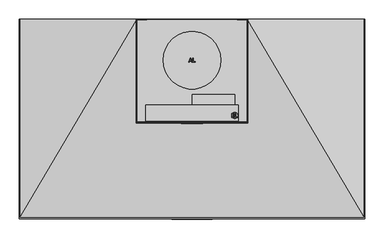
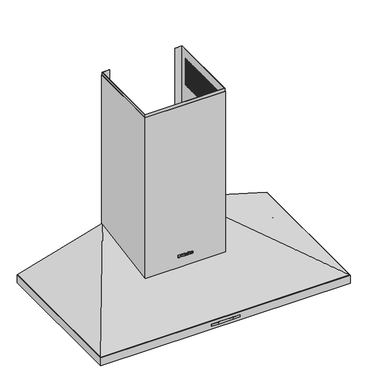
"""IFC4 building model written with IfcOpenShell, lengths in millimetres: proxy geometry, 10558800_USA_DA399-7_EDST : 28399750_USA_10558800_DA399-7_EDST."""

from ifc_helpers import new_model, si_unit, point, frame, frame_2d, origin, place, context, project, spatial, polyline, circle_curve, ellipse_curve, trimmed, segment, composite_curve, outline, extrude, faceted_brep, source, transform, mapped, element, save
from ifc_brep_helpers import plane_surface, cylinder_surface, revolved_surface, extruded_surface, advanced_brep


def specialty_equipment_13ad61e1(model_context):
    return source(origin(), model_context, "Body", "SolidModel", [
        extrude(outline(polyline([(110.5, -224.0), (0.5, -224.0), (0.5, -196.0), (110.5, -196.0), (110.5, -224.0)])), frame((0.0, 0.0, 392.0), z_axis=(0.0, 0.0, 1.0), x_axis=(1.0, 0.0, 0.0)), (0.0, 0.0, 1.0), 52.0),
        extrude(outline(polyline([(120.5, -224.0), (120.5, -265.0), (-120.5, -265.0), (-120.5, -224.0), (120.5, -224.0)])), frame((0.0, 0.0, 392.0), z_axis=(0.0, 0.0, 1.0), x_axis=(1.0, 0.0, 0.0)), (0.0, 0.0, 1.0), 122.0),
        extrude(outline(polyline([(110.014065, -245.4922441), (110.0153832, -246.7601226), (104.1612855, -246.7662093), (104.1643577, -249.7209702), (109.7295269, -249.7151839), (109.7308417, -250.9796987), (104.1656725, -250.9854851), (104.1690817, -254.2643966), (110.1974102, -254.2581287), (110.198736, -255.5332931), (102.9171087, -255.5332931), (102.9066684, -245.4922441), (110.014065, -245.4922441)])), frame((0.0, 0.0, 544.0), z_axis=(0.0, 0.0, 1.0), x_axis=(1.0, 0.0, 0.0)), (0.0, 0.0, 1.0), 1.0),
        extrude(outline(polyline([(112.0694489, -255.5332931), (112.0590087, -245.4922441), (113.3383774, -245.4922441), (113.3475128, -254.2784223), (118.3475101, -254.2732236), (118.3488202, -255.5332931), (112.0694489, -255.5332931)])), frame((0.0, 0.0, 544.0), z_axis=(0.0, 0.0, 1.0), x_axis=(1.0, 0.0, 0.0)), (0.0, 0.0, 1.0), 1.0),
        extrude(outline(composite_curve([segment(trimmed(circle_curve(frame_2d((111.0, -250.5)), 7.5), [point((103.5, -250.5))], [point((118.5, -250.5))], False, "CARTESIAN"), True, "CONTINUOUS"), segment(trimmed(circle_curve(frame_2d((111.0, -250.5)), 7.5), [point((118.5, -250.5))], [point((103.5, -250.5))], False, "CARTESIAN"), True, "CONTINUOUS")], self_intersect=False)), frame((0.0, 0.0, 514.0), z_axis=(0.0, 0.0, 1.0), x_axis=(1.0, 0.0, 0.0)), (0.0, 0.0, 1.0), 30.0),
        extrude(outline(polyline([(-4.5318611, -101.9516419), (-3.4734674, -101.9516419), (0.5452436, -111.9981975), (-0.792243, -111.9981975), (-1.9351182, -108.8581737), (-6.0626299, -108.8581737), (-7.2022382, -111.9892215), (-8.5533668, -111.9892215), (-4.5318611, -101.9516419)]), holes=[polyline([(-5.5985064, -107.6034349), (-2.3931536, -107.6034349), (-4.0041432, -103.2229581), (-5.5985064, -107.6034349)])]), frame((0.0, 0.0, 421.0), z_axis=(0.0, 0.0, 1.0), x_axis=(1.0, 0.0, 0.0)), (0.0, 0.0, 1.0), 1.0),
        extrude(outline(polyline([(1.881291, -112.0005008), (1.881291, -101.9479948), (3.1588826, -101.9479948), (3.1588826, -110.7519516), (8.1588826, -110.7519516), (8.1588826, -112.0005008), (1.881291, -112.0005008)])), frame((0.0, 0.0, 421.0), z_axis=(0.0, 0.0, 1.0), x_axis=(1.0, 0.0, 0.0)), (0.0, 0.0, 1.0), 1.0),
        extrude(outline(composite_curve([segment(trimmed(circle_curve(frame_2d((0.0, -107.0)), 75.0), [point((75.0, -107.0))], [point((-75.0, -107.0))], False, "CARTESIAN"), True, "CONTINUOUS"), segment(trimmed(circle_curve(frame_2d((0.0, -107.0)), 75.0), [point((-75.0, -107.0))], [point((75.0, -107.0))], False, "CARTESIAN"), True, "CONTINUOUS")], self_intersect=False)), frame((0.0, 0.0, 392.0), z_axis=(0.0, 0.0, 1.0), x_axis=(1.0, 0.0, 0.0)), (0.0, 0.0, 1.0), 29.0),
        extrude(outline(polyline([(142.95, -1.6), (142.95, -267.5), (-142.95, -267.5), (-142.95, -1.6), (142.95, -1.6)])), frame((0.0, 0.0, 391.0), z_axis=(0.0, 0.0, 1.0), x_axis=(1.0, 0.0, 0.0)), (0.0, 0.0, 1.0), 1.0),
        faceted_brep([(-145.0, 0.0, 685.0), (-145.0, -270.0, 685.0), (145.0, -270.0, 685.0), (145.0, 0.0, 685.0), (118.0, 0.0, 685.0), (118.0, -0.8, 685.0), (144.2, -0.8, 685.0), (144.2, -269.2, 685.0), (-144.2, -269.2, 685.0), (-144.2, -0.8, 685.0), (-118.0, -0.8, 685.0), (-118.0, 0.0, 685.0), (145.0, 0.0, 120.0), (-145.0, 0.0, 120.0), (-118.0, 0.0, 392.0), (118.0, 0.0, 392.0), (-145.0, -270.0, 74.0), (145.0, -270.0, 74.0), (144.2, -0.8, 119.8637037), (144.2, -269.2, 74.1362963), (-144.2, -269.2, 74.1362963), (-144.2, -0.8, 119.8637037), (118.0, -0.8, 392.0), (-118.0, -0.8, 392.0)], [[[0, 1, 2, 3, 4, 5, 6, 7, 8, 9, 10, 11]], [[3, 12, 13, 0, 11, 14, 15, 4]], [[1, 0, 13, 16]], [[2, 1, 16, 17]], [[3, 2, 17, 12]], [[7, 6, 18, 19]], [[8, 7, 19, 20]], [[9, 8, 20, 21]], [[18, 6, 5, 22, 23, 10, 9, 21]], [[13, 12, 17, 16], [19, 18, 21, 20]], [[15, 22, 5, 4]], [[23, 14, 11, 10]], [[22, 15, 14, 23]]]),
        faceted_brep([(-143.75, -0.8, 695.0), (-143.75, -268.3, 695.0), (143.75, -268.3, 695.0), (143.75, -0.8, 695.0), (118.0, -0.8, 695.0), (118.0, -1.6, 695.0), (142.95, -1.6, 695.0), (142.95, -267.5, 695.0), (-142.95, -267.5, 695.0), (-142.95, -1.6, 695.0), (-118.0, -1.6, 695.0), (-118.0, -0.8, 695.0), (143.75, -0.8, 220.0), (143.75, -268.3, 220.0), (-143.75, -268.3, 220.0), (-143.75, -0.8, 220.0), (142.95, -1.6, 220.0), (-142.95, -1.6, 220.0), (-142.95, -267.5, 220.0), (142.95, -267.5, 220.0), (-118.0, -0.8, 392.0), (118.0, -0.8, 392.0), (-143.75, -242.0, 660.0), (-143.75, -247.0, 660.0), (-143.75, -247.0, 560.0), (-143.75, -242.0, 560.0), (-143.75, -27.0, 560.0), (-143.75, -22.0, 560.0), (-143.75, -22.0, 660.0), (-143.75, -27.0, 660.0), (-143.75, -237.0, 660.0), (-143.75, -237.0, 560.0), (-143.75, -232.0, 560.0), (-143.75, -232.0, 660.0), (-143.75, -227.0, 660.0), (-143.75, -227.0, 560.0), (-143.75, -222.0, 560.0), (-143.75, -222.0, 660.0), (-143.75, -217.0, 660.0), (-143.75, -217.0, 560.0), (-143.75, -212.0, 560.0), (-143.75, -212.0, 660.0), (-143.75, -207.0, 660.0), (-143.75, -207.0, 560.0), (-143.75, -202.0, 560.0), (-143.75, -202.0, 660.0), (-143.75, -197.0, 660.0), (-143.75, -197.0, 560.0), (-143.75, -192.0, 560.0), (-143.75, -192.0, 660.0), (-143.75, -187.0, 660.0), (-143.75, -187.0, 560.0), (-143.75, -182.0, 560.0), (-143.75, -182.0, 660.0), (-143.75, -177.0, 660.0), (-143.75, -177.0, 560.0), (-143.75, -172.0, 560.0), (-143.75, -172.0, 660.0), (-143.75, -167.0, 660.0), (-143.75, -167.0, 560.0), (-143.75, -162.0, 560.0), (-143.75, -162.0, 660.0), (-143.75, -157.0, 660.0), (-143.75, -157.0, 560.0), (-143.75, -152.0, 560.0), (-143.75, -152.0, 660.0), (-143.75, -147.0, 660.0), (-143.75, -147.0, 560.0), (-143.75, -142.0, 560.0), (-143.75, -142.0, 660.0), (-143.75, -137.0, 660.0), (-143.75, -137.0, 560.0), (-143.75, -132.0, 560.0), (-143.75, -132.0, 660.0), (-143.75, -127.0, 660.0), (-143.75, -127.0, 560.0), (-143.75, -122.0, 560.0), (-143.75, -122.0, 660.0), (-143.75, -117.0, 660.0), (-143.75, -117.0, 560.0), (-143.75, -112.0, 560.0), (-143.75, -112.0, 660.0), (-143.75, -107.0, 660.0), (-143.75, -107.0, 560.0), (-143.75, -102.0, 560.0), (-143.75, -102.0, 660.0), (-143.75, -97.0, 660.0), (-143.75, -97.0, 560.0), (-143.75, -92.0, 560.0), (-143.75, -92.0, 660.0), (-143.75, -87.0, 660.0), (-143.75, -87.0, 560.0), (-143.75, -82.0, 560.0), (-143.75, -82.0, 660.0), (-143.75, -77.0, 660.0), (-143.75, -77.0, 560.0), (-143.75, -72.0, 560.0), (-143.75, -72.0, 660.0), (-143.75, -67.0, 660.0), (-143.75, -67.0, 560.0), (-143.75, -62.0, 560.0), (-143.75, -62.0, 660.0), (-143.75, -57.0, 660.0), (-143.75, -57.0, 560.0), (-143.75, -52.0, 560.0), (-143.75, -52.0, 660.0), (-143.75, -47.0, 660.0), (-143.75, -47.0, 560.0), (-143.75, -42.0, 560.0), (-143.75, -42.0, 660.0), (-143.75, -37.0, 660.0), (-143.75, -37.0, 560.0), (-143.75, -32.0, 560.0), (-143.75, -32.0, 660.0), (122.5, -268.3, 560.0), (117.5, -268.3, 560.0), (117.5, -268.3, 660.0), (122.5, -268.3, 660.0), (-122.5, -268.3, 560.0), (-122.5, -268.3, 660.0), (-117.5, -268.3, 660.0), (-117.5, -268.3, 560.0), (-112.5, -268.3, 660.0), (-107.5, -268.3, 660.0), (-107.5, -268.3, 560.0), (-112.5, -268.3, 560.0), (-102.5, -268.3, 660.0), (-97.5, -268.3, 660.0), (-97.5, -268.3, 560.0), (-102.5, -268.3, 560.0), (-92.5, -268.3, 660.0), (-87.5, -268.3, 660.0), (-87.5, -268.3, 560.0), (-92.5, -268.3, 560.0), (-82.5, -268.3, 660.0), (-77.5, -268.3, 660.0), (-77.5, -268.3, 560.0), (-82.5, -268.3, 560.0), (-72.5, -268.3, 660.0), (-67.5, -268.3, 660.0), (-67.5, -268.3, 560.0), (-72.5, -268.3, 560.0), (-62.5, -268.3, 660.0), (-57.5, -268.3, 660.0), (-57.5, -268.3, 560.0), (-62.5, -268.3, 560.0), (-52.5, -268.3, 660.0), (-47.5, -268.3, 660.0), (-47.5, -268.3, 560.0), (-52.5, -268.3, 560.0), (-42.5, -268.3, 660.0), (-37.5, -268.3, 660.0), (-37.5, -268.3, 560.0), (-42.5, -268.3, 560.0), (-32.5, -268.3, 660.0), (-27.5, -268.3, 660.0), (-27.5, -268.3, 560.0), (-32.5, -268.3, 560.0), (-22.5, -268.3, 660.0), (-17.5, -268.3, 660.0), (-17.5, -268.3, 560.0), (-22.5, -268.3, 560.0), (-12.5, -268.3, 660.0), (-7.5, -268.3, 660.0), (-7.5, -268.3, 560.0), (-12.5, -268.3, 560.0), (-2.5, -268.3, 660.0), (2.5, -268.3, 660.0), (2.5, -268.3, 560.0), (-2.5, -268.3, 560.0), (7.5, -268.3, 660.0), (12.5, -268.3, 660.0), (12.5, -268.3, 560.0), (7.5, -268.3, 560.0), (17.5, -268.3, 660.0), (22.5, -268.3, 660.0), (22.5, -268.3, 560.0), (17.5, -268.3, 560.0), (27.5, -268.3, 660.0), (32.5, -268.3, 660.0), (32.5, -268.3, 560.0), (27.5, -268.3, 560.0), (37.5, -268.3, 660.0), (42.5, -268.3, 660.0), (42.5, -268.3, 560.0), (37.5, -268.3, 560.0), (47.5, -268.3, 660.0), (52.5, -268.3, 660.0), (52.5, -268.3, 560.0), (47.5, -268.3, 560.0), (57.5, -268.3, 660.0), (62.5, -268.3, 660.0), (62.5, -268.3, 560.0), (57.5, -268.3, 560.0), (67.5, -268.3, 660.0), (72.5, -268.3, 660.0), (72.5, -268.3, 560.0), (67.5, -268.3, 560.0), (77.5, -268.3, 660.0), (82.5, -268.3, 660.0), (82.5, -268.3, 560.0), (77.5, -268.3, 560.0), (87.5, -268.3, 660.0), (92.5, -268.3, 660.0), (92.5, -268.3, 560.0), (87.5, -268.3, 560.0), (97.5, -268.3, 660.0), (102.5, -268.3, 660.0), (102.5, -268.3, 560.0), (97.5, -268.3, 560.0), (107.5, -268.3, 660.0), (112.5, -268.3, 660.0), (112.5, -268.3, 560.0), (107.5, -268.3, 560.0), (143.75, -247.0, 660.0), (143.75, -242.0, 660.0), (143.75, -242.0, 560.0), (143.75, -247.0, 560.0), (143.75, -22.0, 560.0), (143.75, -27.0, 560.0), (143.75, -27.0, 660.0), (143.75, -22.0, 660.0), (143.75, -237.0, 560.0), (143.75, -237.0, 660.0), (143.75, -232.0, 660.0), (143.75, -232.0, 560.0), (143.75, -227.0, 560.0), (143.75, -227.0, 660.0), (143.75, -222.0, 660.0), (143.75, -222.0, 560.0), (143.75, -217.0, 560.0), (143.75, -217.0, 660.0), (143.75, -212.0, 660.0), (143.75, -212.0, 560.0), (143.75, -207.0, 560.0), (143.75, -207.0, 660.0), (143.75, -202.0, 660.0), (143.75, -202.0, 560.0), (143.75, -197.0, 560.0), (143.75, -197.0, 660.0), (143.75, -192.0, 660.0), (143.75, -192.0, 560.0), (143.75, -187.0, 560.0), (143.75, -187.0, 660.0), (143.75, -182.0, 660.0), (143.75, -182.0, 560.0), (143.75, -177.0, 560.0), (143.75, -177.0, 660.0), (143.75, -172.0, 660.0), (143.75, -172.0, 560.0), (143.75, -167.0, 560.0), (143.75, -167.0, 660.0), (143.75, -162.0, 660.0), (143.75, -162.0, 560.0), (143.75, -157.0, 560.0), (143.75, -157.0, 660.0), (143.75, -152.0, 660.0), (143.75, -152.0, 560.0), (143.75, -147.0, 560.0), (143.75, -147.0, 660.0), (143.75, -142.0, 660.0), (143.75, -142.0, 560.0), (143.75, -137.0, 560.0), (143.75, -137.0, 660.0), (143.75, -132.0, 660.0), (143.75, -132.0, 560.0), (143.75, -127.0, 560.0), (143.75, -127.0, 660.0), (143.75, -122.0, 660.0), (143.75, -122.0, 560.0), (143.75, -117.0, 560.0), (143.75, -117.0, 660.0), (143.75, -112.0, 660.0), (143.75, -112.0, 560.0), (143.75, -107.0, 560.0), (143.75, -107.0, 660.0), (143.75, -102.0, 660.0), (143.75, -102.0, 560.0), (143.75, -97.0, 560.0), (143.75, -97.0, 660.0), (143.75, -92.0, 660.0), (143.75, -92.0, 560.0), (143.75, -87.0, 560.0), (143.75, -87.0, 660.0), (143.75, -82.0, 660.0), (143.75, -82.0, 560.0), (143.75, -77.0, 560.0), (143.75, -77.0, 660.0), (143.75, -72.0, 660.0), (143.75, -72.0, 560.0), (143.75, -67.0, 560.0), (143.75, -67.0, 660.0), (143.75, -62.0, 660.0), (143.75, -62.0, 560.0), (143.75, -57.0, 560.0), (143.75, -57.0, 660.0), (143.75, -52.0, 660.0), (143.75, -52.0, 560.0), (143.75, -47.0, 560.0), (143.75, -47.0, 660.0), (143.75, -42.0, 660.0), (143.75, -42.0, 560.0), (143.75, -37.0, 560.0), (143.75, -37.0, 660.0), (143.75, -32.0, 660.0), (143.75, -32.0, 560.0), (142.95, -242.0, 660.0), (142.95, -247.0, 660.0), (142.95, -247.0, 560.0), (142.95, -242.0, 560.0), (142.95, -27.0, 560.0), (142.95, -22.0, 560.0), (142.95, -22.0, 660.0), (142.95, -27.0, 660.0), (142.95, -237.0, 660.0), (142.95, -237.0, 560.0), (142.95, -232.0, 560.0), (142.95, -232.0, 660.0), (142.95, -227.0, 660.0), (142.95, -227.0, 560.0), (142.95, -222.0, 560.0), (142.95, -222.0, 660.0), (142.95, -217.0, 660.0), (142.95, -217.0, 560.0), (142.95, -212.0, 560.0), (142.95, -212.0, 660.0), (142.95, -207.0, 660.0), (142.95, -207.0, 560.0), (142.95, -202.0, 560.0), (142.95, -202.0, 660.0), (142.95, -197.0, 660.0), (142.95, -197.0, 560.0), (142.95, -192.0, 560.0), (142.95, -192.0, 660.0), (142.95, -187.0, 660.0), (142.95, -187.0, 560.0), (142.95, -182.0, 560.0), (142.95, -182.0, 660.0), (142.95, -177.0, 660.0), (142.95, -177.0, 560.0), (142.95, -172.0, 560.0), (142.95, -172.0, 660.0), (142.95, -167.0, 660.0), (142.95, -167.0, 560.0), (142.95, -162.0, 560.0), (142.95, -162.0, 660.0), (142.95, -157.0, 660.0), (142.95, -157.0, 560.0), (142.95, -152.0, 560.0), (142.95, -152.0, 660.0), (142.95, -147.0, 660.0), (142.95, -147.0, 560.0), (142.95, -142.0, 560.0), (142.95, -142.0, 660.0), (142.95, -137.0, 660.0), (142.95, -137.0, 560.0), (142.95, -132.0, 560.0), (142.95, -132.0, 660.0), (142.95, -127.0, 660.0), (142.95, -127.0, 560.0), (142.95, -122.0, 560.0), (142.95, -122.0, 660.0), (142.95, -117.0, 660.0), (142.95, -117.0, 560.0), (142.95, -112.0, 560.0), (142.95, -112.0, 660.0), (142.95, -107.0, 660.0), (142.95, -107.0, 560.0), (142.95, -102.0, 560.0), (142.95, -102.0, 660.0), (142.95, -97.0, 660.0), (142.95, -97.0, 560.0), (142.95, -92.0, 560.0), (142.95, -92.0, 660.0), (142.95, -87.0, 660.0), (142.95, -87.0, 560.0), (142.95, -82.0, 560.0), (142.95, -82.0, 660.0), (142.95, -77.0, 660.0), (142.95, -77.0, 560.0), (142.95, -72.0, 560.0), (142.95, -72.0, 660.0), (142.95, -67.0, 660.0), (142.95, -67.0, 560.0), (142.95, -62.0, 560.0), (142.95, -62.0, 660.0), (142.95, -57.0, 660.0), (142.95, -57.0, 560.0), (142.95, -52.0, 560.0), (142.95, -52.0, 660.0), (142.95, -47.0, 660.0), (142.95, -47.0, 560.0), (142.95, -42.0, 560.0), (142.95, -42.0, 660.0), (142.95, -37.0, 660.0), (142.95, -37.0, 560.0), (142.95, -32.0, 560.0), (142.95, -32.0, 660.0), (117.5, -267.5, 560.0), (122.5, -267.5, 560.0), (122.5, -267.5, 660.0), (117.5, -267.5, 660.0), (-122.5, -267.5, 660.0), (-122.5, -267.5, 560.0), (-117.5, -267.5, 560.0), (-117.5, -267.5, 660.0), (-107.5, -267.5, 660.0), (-112.5, -267.5, 660.0), (-112.5, -267.5, 560.0), (-107.5, -267.5, 560.0), (-97.5, -267.5, 660.0), (-102.5, -267.5, 660.0), (-102.5, -267.5, 560.0), (-97.5, -267.5, 560.0), (-87.5, -267.5, 660.0), (-92.5, -267.5, 660.0), (-92.5, -267.5, 560.0), (-87.5, -267.5, 560.0), (-77.5, -267.5, 660.0), (-82.5, -267.5, 660.0), (-82.5, -267.5, 560.0), (-77.5, -267.5, 560.0), (-67.5, -267.5, 660.0), (-72.5, -267.5, 660.0), (-72.5, -267.5, 560.0), (-67.5, -267.5, 560.0), (-57.5, -267.5, 660.0), (-62.5, -267.5, 660.0), (-62.5, -267.5, 560.0), (-57.5, -267.5, 560.0), (-47.5, -267.5, 660.0), (-52.5, -267.5, 660.0), (-52.5, -267.5, 560.0), (-47.5, -267.5, 560.0), (-37.5, -267.5, 660.0), (-42.5, -267.5, 660.0), (-42.5, -267.5, 560.0), (-37.5, -267.5, 560.0), (-27.5, -267.5, 660.0), (-32.5, -267.5, 660.0), (-32.5, -267.5, 560.0), (-27.5, -267.5, 560.0), (-17.5, -267.5, 660.0), (-22.5, -267.5, 660.0), (-22.5, -267.5, 560.0), (-17.5, -267.5, 560.0), (-7.5, -267.5, 660.0), (-12.5, -267.5, 660.0), (-12.5, -267.5, 560.0), (-7.5, -267.5, 560.0), (2.5, -267.5, 660.0), (-2.5, -267.5, 660.0), (-2.5, -267.5, 560.0), (2.5, -267.5, 560.0), (12.5, -267.5, 660.0), (7.5, -267.5, 660.0), (7.5, -267.5, 560.0), (12.5, -267.5, 560.0), (22.5, -267.5, 660.0), (17.5, -267.5, 660.0), (17.5, -267.5, 560.0), (22.5, -267.5, 560.0), (32.5, -267.5, 660.0), (27.5, -267.5, 660.0), (27.5, -267.5, 560.0), (32.5, -267.5, 560.0), (42.5, -267.5, 660.0), (37.5, -267.5, 660.0), (37.5, -267.5, 560.0), (42.5, -267.5, 560.0), (52.5, -267.5, 660.0), (47.5, -267.5, 660.0), (47.5, -267.5, 560.0), (52.5, -267.5, 560.0), (62.5, -267.5, 660.0), (57.5, -267.5, 660.0), (57.5, -267.5, 560.0), (62.5, -267.5, 560.0), (72.5, -267.5, 660.0), (67.5, -267.5, 660.0), (67.5, -267.5, 560.0), (72.5, -267.5, 560.0), (82.5, -267.5, 660.0), (77.5, -267.5, 660.0), (77.5, -267.5, 560.0), (82.5, -267.5, 560.0), (92.5, -267.5, 660.0), (87.5, -267.5, 660.0), (87.5, -267.5, 560.0), (92.5, -267.5, 560.0), (102.5, -267.5, 660.0), (97.5, -267.5, 660.0), (97.5, -267.5, 560.0), (102.5, -267.5, 560.0), (112.5, -267.5, 660.0), (107.5, -267.5, 660.0), (107.5, -267.5, 560.0), (112.5, -267.5, 560.0), (-142.95, -247.0, 660.0), (-142.95, -242.0, 660.0), (-142.95, -242.0, 560.0), (-142.95, -247.0, 560.0), (-142.95, -22.0, 560.0), (-142.95, -27.0, 560.0), (-142.95, -27.0, 660.0), (-142.95, -22.0, 660.0), (-142.95, -237.0, 560.0), (-142.95, -237.0, 660.0), (-142.95, -232.0, 660.0), (-142.95, -232.0, 560.0), (-142.95, -227.0, 560.0), (-142.95, -227.0, 660.0), (-142.95, -222.0, 660.0), (-142.95, -222.0, 560.0), (-142.95, -217.0, 560.0), (-142.95, -217.0, 660.0), (-142.95, -212.0, 660.0), (-142.95, -212.0, 560.0), (-142.95, -207.0, 560.0), (-142.95, -207.0, 660.0), (-142.95, -202.0, 660.0), (-142.95, -202.0, 560.0), (-142.95, -197.0, 560.0), (-142.95, -197.0, 660.0), (-142.95, -192.0, 660.0), (-142.95, -192.0, 560.0), (-142.95, -187.0, 560.0), (-142.95, -187.0, 660.0), (-142.95, -182.0, 660.0), (-142.95, -182.0, 560.0), (-142.95, -177.0, 560.0), (-142.95, -177.0, 660.0), (-142.95, -172.0, 660.0), (-142.95, -172.0, 560.0), (-142.95, -167.0, 560.0), (-142.95, -167.0, 660.0), (-142.95, -162.0, 660.0), (-142.95, -162.0, 560.0), (-142.95, -157.0, 560.0), (-142.95, -157.0, 660.0), (-142.95, -152.0, 660.0), (-142.95, -152.0, 560.0), (-142.95, -147.0, 560.0), (-142.95, -147.0, 660.0), (-142.95, -142.0, 660.0), (-142.95, -142.0, 560.0), (-142.95, -137.0, 560.0), (-142.95, -137.0, 660.0), (-142.95, -132.0, 660.0), (-142.95, -132.0, 560.0), (-142.95, -127.0, 560.0), (-142.95, -127.0, 660.0), (-142.95, -122.0, 660.0), (-142.95, -122.0, 560.0), (-142.95, -117.0, 560.0), (-142.95, -117.0, 660.0), (-142.95, -112.0, 660.0), (-142.95, -112.0, 560.0), (-142.95, -107.0, 560.0), (-142.95, -107.0, 660.0), (-142.95, -102.0, 660.0), (-142.95, -102.0, 560.0), (-142.95, -97.0, 560.0), (-142.95, -97.0, 660.0), (-142.95, -92.0, 660.0), (-142.95, -92.0, 560.0), (-142.95, -87.0, 560.0), (-142.95, -87.0, 660.0), (-142.95, -82.0, 660.0), (-142.95, -82.0, 560.0), (-142.95, -77.0, 560.0), (-142.95, -77.0, 660.0), (-142.95, -72.0, 660.0), (-142.95, -72.0, 560.0), (-142.95, -67.0, 560.0), (-142.95, -67.0, 660.0), (-142.95, -62.0, 660.0), (-142.95, -62.0, 560.0), (-142.95, -57.0, 560.0), (-142.95, -57.0, 660.0), (-142.95, -52.0, 660.0), (-142.95, -52.0, 560.0), (-142.95, -47.0, 560.0), (-142.95, -47.0, 660.0), (-142.95, -42.0, 660.0), (-142.95, -42.0, 560.0), (-142.95, -37.0, 560.0), (-142.95, -37.0, 660.0), (-142.95, -32.0, 660.0), (-142.95, -32.0, 560.0), (118.0, -1.6, 392.0), (-118.0, -1.6, 392.0)], [[[0, 1, 2, 3, 4, 5, 6, 7, 8, 9, 10, 11]], [[12, 13, 14, 15], [16, 17, 18, 19]], [[12, 15, 0, 11, 20, 21, 4, 3]], [[1, 0, 15, 14], [22, 23, 24, 25], [26, 27, 28, 29], [30, 31, 32, 33], [34, 35, 36, 37], [38, 39, 40, 41], [42, 43, 44, 45], [46, 47, 48, 49], [50, 51, 52, 53], [54, 55, 56, 57], [58, 59, 60, 61], [62, 63, 64, 65], [66, 67, 68, 69], [70, 71, 72, 73], [74, 75, 76, 77], [78, 79, 80, 81], [82, 83, 84, 85], [86, 87, 88, 89], [90, 91, 92, 93], [94, 95, 96, 97], [98, 99, 100, 101], [102, 103, 104, 105], [106, 107, 108, 109], [110, 111, 112, 113]], [[2, 1, 14, 13], [114, 115, 116, 117], [118, 119, 120, 121], [122, 123, 124, 125], [126, 127, 128, 129], [130, 131, 132, 133], [134, 135, 136, 137], [138, 139, 140, 141], [142, 143, 144, 145], [146, 147, 148, 149], [150, 151, 152, 153], [154, 155, 156, 157], [158, 159, 160, 161], [162, 163, 164, 165], [166, 167, 168, 169], [170, 171, 172, 173], [174, 175, 176, 177], [178, 179, 180, 181], [182, 183, 184, 185], [186, 187, 188, 189], [190, 191, 192, 193], [194, 195, 196, 197], [198, 199, 200, 201], [202, 203, 204, 205], [206, 207, 208, 209], [210, 211, 212, 213]], [[3, 2, 13, 12], [214, 215, 216, 217], [218, 219, 220, 221], [222, 223, 224, 225], [226, 227, 228, 229], [230, 231, 232, 233], [234, 235, 236, 237], [238, 239, 240, 241], [242, 243, 244, 245], [246, 247, 248, 249], [250, 251, 252, 253], [254, 255, 256, 257], [258, 259, 260, 261], [262, 263, 264, 265], [266, 267, 268, 269], [270, 271, 272, 273], [274, 275, 276, 277], [278, 279, 280, 281], [282, 283, 284, 285], [286, 287, 288, 289], [290, 291, 292, 293], [294, 295, 296, 297], [298, 299, 300, 301], [302, 303, 304, 305]], [[7, 6, 16, 19], [306, 307, 308, 309], [310, 311, 312, 313], [314, 315, 316, 317], [318, 319, 320, 321], [322, 323, 324, 325], [326, 327, 328, 329], [330, 331, 332, 333], [334, 335, 336, 337], [338, 339, 340, 341], [342, 343, 344, 345], [346, 347, 348, 349], [350, 351, 352, 353], [354, 355, 356, 357], [358, 359, 360, 361], [362, 363, 364, 365], [366, 367, 368, 369], [370, 371, 372, 373], [374, 375, 376, 377], [378, 379, 380, 381], [382, 383, 384, 385], [386, 387, 388, 389], [390, 391, 392, 393], [394, 395, 396, 397]], [[8, 7, 19, 18], [398, 399, 400, 401], [402, 403, 404, 405], [406, 407, 408, 409], [410, 411, 412, 413], [414, 415, 416, 417], [418, 419, 420, 421], [422, 423, 424, 425], [426, 427, 428, 429], [430, 431, 432, 433], [434, 435, 436, 437], [438, 439, 440, 441], [442, 443, 444, 445], [446, 447, 448, 449], [450, 451, 452, 453], [454, 455, 456, 457], [458, 459, 460, 461], [462, 463, 464, 465], [466, 467, 468, 469], [470, 471, 472, 473], [474, 475, 476, 477], [478, 479, 480, 481], [482, 483, 484, 485], [486, 487, 488, 489], [490, 491, 492, 493], [494, 495, 496, 497]], [[9, 8, 18, 17], [498, 499, 500, 501], [502, 503, 504, 505], [506, 507, 508, 509], [510, 511, 512, 513], [514, 515, 516, 517], [518, 519, 520, 521], [522, 523, 524, 525], [526, 527, 528, 529], [530, 531, 532, 533], [534, 535, 536, 537], [538, 539, 540, 541], [542, 543, 544, 545], [546, 547, 548, 549], [550, 551, 552, 553], [554, 555, 556, 557], [558, 559, 560, 561], [562, 563, 564, 565], [566, 567, 568, 569], [570, 571, 572, 573], [574, 575, 576, 577], [578, 579, 580, 581], [582, 583, 584, 585], [586, 587, 588, 589]], [[17, 16, 6, 5, 590, 591, 10, 9]], [[398, 115, 114, 399]], [[402, 119, 118, 403]], [[119, 402, 405, 120]], [[120, 405, 404, 121]], [[403, 118, 121, 404]], [[115, 398, 401, 116]], [[116, 401, 400, 117]], [[399, 114, 117, 400]], [[406, 123, 122, 407]], [[123, 406, 409, 124]], [[124, 409, 408, 125]], [[407, 122, 125, 408]], [[410, 127, 126, 411]], [[127, 410, 413, 128]], [[128, 413, 412, 129]], [[411, 126, 129, 412]], [[414, 131, 130, 415]], [[131, 414, 417, 132]], [[132, 417, 416, 133]], [[415, 130, 133, 416]], [[418, 135, 134, 419]], [[135, 418, 421, 136]], [[136, 421, 420, 137]], [[419, 134, 137, 420]], [[422, 139, 138, 423]], [[139, 422, 425, 140]], [[140, 425, 424, 141]], [[423, 138, 141, 424]], [[426, 143, 142, 427]], [[143, 426, 429, 144]], [[144, 429, 428, 145]], [[427, 142, 145, 428]], [[430, 147, 146, 431]], [[147, 430, 433, 148]], [[148, 433, 432, 149]], [[431, 146, 149, 432]], [[434, 151, 150, 435]], [[151, 434, 437, 152]], [[152, 437, 436, 153]], [[435, 150, 153, 436]], [[438, 155, 154, 439]], [[155, 438, 441, 156]], [[156, 441, 440, 157]], [[439, 154, 157, 440]], [[442, 159, 158, 443]], [[159, 442, 445, 160]], [[160, 445, 444, 161]], [[443, 158, 161, 444]], [[446, 163, 162, 447]], [[163, 446, 449, 164]], [[164, 449, 448, 165]], [[447, 162, 165, 448]], [[450, 167, 166, 451]], [[167, 450, 453, 168]], [[168, 453, 452, 169]], [[451, 166, 169, 452]], [[454, 171, 170, 455]], [[171, 454, 457, 172]], [[172, 457, 456, 173]], [[455, 170, 173, 456]], [[458, 175, 174, 459]], [[175, 458, 461, 176]], [[176, 461, 460, 177]], [[459, 174, 177, 460]], [[462, 179, 178, 463]], [[179, 462, 465, 180]], [[180, 465, 464, 181]], [[463, 178, 181, 464]], [[466, 183, 182, 467]], [[183, 466, 469, 184]], [[184, 469, 468, 185]], [[467, 182, 185, 468]], [[470, 187, 186, 471]], [[187, 470, 473, 188]], [[188, 473, 472, 189]], [[471, 186, 189, 472]], [[474, 191, 190, 475]], [[191, 474, 477, 192]], [[192, 477, 476, 193]], [[475, 190, 193, 476]], [[478, 195, 194, 479]], [[195, 478, 481, 196]], [[196, 481, 480, 197]], [[479, 194, 197, 480]], [[482, 199, 198, 483]], [[199, 482, 485, 200]], [[200, 485, 484, 201]], [[483, 198, 201, 484]], [[486, 203, 202, 487]], [[203, 486, 489, 204]], [[204, 489, 488, 205]], [[487, 202, 205, 488]], [[490, 207, 206, 491]], [[207, 490, 493, 208]], [[208, 493, 492, 209]], [[491, 206, 209, 492]], [[494, 211, 210, 495]], [[211, 494, 497, 212]], [[212, 497, 496, 213]], [[495, 210, 213, 496]], [[306, 215, 214, 307]], [[22, 499, 498, 23]], [[307, 214, 217, 308]], [[23, 498, 501, 24]], [[308, 217, 216, 309]], [[24, 501, 500, 25]], [[215, 306, 309, 216]], [[499, 22, 25, 500]], [[310, 219, 218, 311]], [[26, 503, 502, 27]], [[311, 218, 221, 312]], [[27, 502, 505, 28]], [[312, 221, 220, 313]], [[28, 505, 504, 29]], [[219, 310, 313, 220]], [[503, 26, 29, 504]], [[314, 223, 222, 315]], [[30, 507, 506, 31]], [[315, 222, 225, 316]], [[31, 506, 509, 32]], [[316, 225, 224, 317]], [[32, 509, 508, 33]], [[223, 314, 317, 224]], [[507, 30, 33, 508]], [[318, 227, 226, 319]], [[34, 511, 510, 35]], [[319, 226, 229, 320]], [[35, 510, 513, 36]], [[320, 229, 228, 321]], [[36, 513, 512, 37]], [[227, 318, 321, 228]], [[511, 34, 37, 512]], [[322, 231, 230, 323]], [[38, 515, 514, 39]], [[323, 230, 233, 324]], [[39, 514, 517, 40]], [[324, 233, 232, 325]], [[40, 517, 516, 41]], [[231, 322, 325, 232]], [[515, 38, 41, 516]], [[326, 235, 234, 327]], [[42, 519, 518, 43]], [[327, 234, 237, 328]], [[43, 518, 521, 44]], [[328, 237, 236, 329]], [[44, 521, 520, 45]], [[235, 326, 329, 236]], [[519, 42, 45, 520]], [[330, 239, 238, 331]], [[46, 523, 522, 47]], [[331, 238, 241, 332]], [[47, 522, 525, 48]], [[332, 241, 240, 333]], [[48, 525, 524, 49]], [[239, 330, 333, 240]], [[523, 46, 49, 524]], [[334, 243, 242, 335]], [[50, 527, 526, 51]], [[335, 242, 245, 336]], [[51, 526, 529, 52]], [[336, 245, 244, 337]], [[52, 529, 528, 53]], [[243, 334, 337, 244]], [[527, 50, 53, 528]], [[338, 247, 246, 339]], [[54, 531, 530, 55]], [[339, 246, 249, 340]], [[55, 530, 533, 56]], [[340, 249, 248, 341]], [[56, 533, 532, 57]], [[247, 338, 341, 248]], [[531, 54, 57, 532]], [[342, 251, 250, 343]], [[58, 535, 534, 59]], [[343, 250, 253, 344]], [[59, 534, 537, 60]], [[344, 253, 252, 345]], [[60, 537, 536, 61]], [[251, 342, 345, 252]], [[535, 58, 61, 536]], [[346, 255, 254, 347]], [[62, 539, 538, 63]], [[347, 254, 257, 348]], [[63, 538, 541, 64]], [[348, 257, 256, 349]], [[64, 541, 540, 65]], [[255, 346, 349, 256]], [[539, 62, 65, 540]], [[350, 259, 258, 351]], [[66, 543, 542, 67]], [[351, 258, 261, 352]], [[67, 542, 545, 68]], [[352, 261, 260, 353]], [[68, 545, 544, 69]], [[259, 350, 353, 260]], [[543, 66, 69, 544]], [[354, 263, 262, 355]], [[70, 547, 546, 71]], [[355, 262, 265, 356]], [[71, 546, 549, 72]], [[356, 265, 264, 357]], [[72, 549, 548, 73]], [[263, 354, 357, 264]], [[547, 70, 73, 548]], [[358, 267, 266, 359]], [[74, 551, 550, 75]], [[359, 266, 269, 360]], [[75, 550, 553, 76]], [[360, 269, 268, 361]], [[76, 553, 552, 77]], [[267, 358, 361, 268]], [[551, 74, 77, 552]], [[362, 271, 270, 363]], [[78, 555, 554, 79]], [[363, 270, 273, 364]], [[79, 554, 557, 80]], [[364, 273, 272, 365]], [[80, 557, 556, 81]], [[271, 362, 365, 272]], [[555, 78, 81, 556]], [[366, 275, 274, 367]], [[82, 559, 558, 83]], [[367, 274, 277, 368]], [[83, 558, 561, 84]], [[368, 277, 276, 369]], [[84, 561, 560, 85]], [[275, 366, 369, 276]], [[559, 82, 85, 560]], [[370, 279, 278, 371]], [[86, 563, 562, 87]], [[371, 278, 281, 372]], [[87, 562, 565, 88]], [[372, 281, 280, 373]], [[88, 565, 564, 89]], [[279, 370, 373, 280]], [[563, 86, 89, 564]], [[374, 283, 282, 375]], [[90, 567, 566, 91]], [[375, 282, 285, 376]], [[91, 566, 569, 92]], [[376, 285, 284, 377]], [[92, 569, 568, 93]], [[283, 374, 377, 284]], [[567, 90, 93, 568]], [[378, 287, 286, 379]], [[94, 571, 570, 95]], [[379, 286, 289, 380]], [[95, 570, 573, 96]], [[380, 289, 288, 381]], [[96, 573, 572, 97]], [[287, 378, 381, 288]], [[571, 94, 97, 572]], [[382, 291, 290, 383]], [[98, 575, 574, 99]], [[383, 290, 293, 384]], [[99, 574, 577, 100]], [[384, 293, 292, 385]], [[100, 577, 576, 101]], [[291, 382, 385, 292]], [[575, 98, 101, 576]], [[386, 295, 294, 387]], [[102, 579, 578, 103]], [[387, 294, 297, 388]], [[103, 578, 581, 104]], [[388, 297, 296, 389]], [[104, 581, 580, 105]], [[295, 386, 389, 296]], [[579, 102, 105, 580]], [[390, 299, 298, 391]], [[106, 583, 582, 107]], [[391, 298, 301, 392]], [[107, 582, 585, 108]], [[392, 301, 300, 393]], [[108, 585, 584, 109]], [[299, 390, 393, 300]], [[583, 106, 109, 584]], [[394, 303, 302, 395]], [[110, 587, 586, 111]], [[395, 302, 305, 396]], [[111, 586, 589, 112]], [[396, 305, 304, 397]], [[112, 589, 588, 113]], [[303, 394, 397, 304]], [[587, 110, 113, 588]], [[21, 590, 5, 4]], [[591, 20, 11, 10]], [[590, 21, 20, 591]]]),
        extrude(outline(composite_curve([segment(trimmed(circle_curve(frame_2d((540.0, 22.5)), 25.0), [point((540.0, 47.4999999))], [point((540.0, -2.5000001))], False, "CARTESIAN"), True, "CONTINUOUS"), segment(trimmed(circle_curve(frame_2d((540.0, 22.5)), 25.0), [point((540.0, -2.5000001))], [point((540.0, 47.4999999))], False, "CARTESIAN"), True, "CONTINUOUS")], self_intersect=False), holes=[composite_curve([segment(trimmed(circle_curve(frame_2d((540.0, 22.5)), 22.5), [point((540.0, 45.0))], [point((540.0, 0.0))], True, "CARTESIAN"), True, "CONTINUOUS"), segment(trimmed(circle_curve(frame_2d((540.0, 22.5)), 22.5), [point((540.0, 0.0))], [point((540.0, 45.0))], True, "CARTESIAN"), True, "CONTINUOUS")], self_intersect=False)]), frame((-270.0, -72.2893414, 10.8398048), z_axis=(0.0, 0.1959461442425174, 0.9806146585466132), x_axis=(1.0, 0.0, 0.0)), (0.0, 0.0, 1.0), 2.0),
        extrude(outline(composite_curve([segment(trimmed(circle_curve(frame_2d((0.0, 22.5)), 25.0), [point((0.0, -2.5000001))], [point((0.0, 47.4999999))], False, "CARTESIAN"), True, "CONTINUOUS"), segment(trimmed(circle_curve(frame_2d((0.0, 22.5)), 25.0), [point((0.0, 47.4999999))], [point((0.0, -2.5000001))], False, "CARTESIAN"), True, "CONTINUOUS")], self_intersect=False), holes=[composite_curve([segment(trimmed(circle_curve(frame_2d((0.0, 22.5)), 22.5), [point((0.0, 45.0))], [point((0.0, 0.0))], True, "CARTESIAN"), True, "CONTINUOUS"), segment(trimmed(circle_curve(frame_2d((0.0, 22.5)), 22.5), [point((0.0, 0.0))], [point((0.0, 45.0))], True, "CARTESIAN"), True, "CONTINUOUS")], self_intersect=False)]), frame((-270.0, -72.2893414, 10.8398048), z_axis=(0.0, 0.1959461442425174, 0.9806146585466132), x_axis=(1.0, 0.0, 0.0)), (0.0, 0.0, 1.0), 2.0),
        extrude(outline(composite_curve([segment(trimmed(circle_curve(frame_2d((0.0, -22.5)), 22.5), [point((0.0, 0.0))], [point((0.0, -45.0))], False, "CARTESIAN"), True, "CONTINUOUS"), segment(trimmed(circle_curve(frame_2d((0.0, -22.5)), 22.5), [point((0.0, -45.0))], [point((0.0, 0.0))], False, "CARTESIAN"), True, "CONTINUOUS")], self_intersect=False)), frame((-270.0, -73.073126, 6.9173462), z_axis=(0.0, 0.1959461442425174, 0.9806146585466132), x_axis=(-1.0, 0.0, 0.0)), (0.0, 0.0, 1.0), 6.0),
        extrude(outline(composite_curve([segment(trimmed(circle_curve(frame_2d((-540.0, -22.5)), 22.5), [point((-540.0, 0.0))], [point((-540.0, -45.0))], False, "CARTESIAN"), True, "CONTINUOUS"), segment(trimmed(circle_curve(frame_2d((-540.0, -22.5)), 22.5), [point((-540.0, -45.0))], [point((-540.0, 0.0))], False, "CARTESIAN"), True, "CONTINUOUS")], self_intersect=False)), frame((-270.0, -73.073126, 6.9173462), z_axis=(0.0, 0.1959461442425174, 0.9806146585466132), x_axis=(-1.0, 0.0, 0.0)), (0.0, 0.0, 1.0), 6.0),
        extrude(outline(polyline([(295.05, -439.0), (295.05, -482.0), (262.05, -482.0), (262.05, -439.0), (295.05, -439.0)]), holes=[polyline([(288.55, -445.5), (268.55, -445.5), (268.55, -474.5), (288.55, -474.5), (288.55, -445.5)])]), frame((0.0, 0.0, 5.5), z_axis=(0.0, 0.0, 1.0), x_axis=(1.0, 0.0, 0.0)), (0.0, 0.0, 1.0), 1.0),
        extrude(outline(polyline([(16.55, -439.0), (16.55, -482.0), (-16.45, -482.0), (-16.45, -439.0), (16.55, -439.0)]), holes=[polyline([(10.05, -445.5), (-9.95, -445.5), (-9.95, -474.5), (10.05, -474.5), (10.05, -445.5)])]), frame((0.0, 0.0, 5.5), z_axis=(0.0, 0.0, 1.0), x_axis=(1.0, 0.0, 0.0)), (0.0, 0.0, 1.0), 1.0),
        extrude(outline(polyline([(-261.95, -439.0), (-261.95, -482.0), (-294.95, -482.0), (-294.95, -439.0), (-261.95, -439.0)]), holes=[polyline([(-268.45, -445.5), (-288.45, -445.5), (-288.45, -474.5), (-268.45, -474.5), (-268.45, -445.5)])]), frame((0.0, 0.0, 5.5), z_axis=(0.0, 0.0, 1.0), x_axis=(1.0, 0.0, 0.0)), (0.0, 0.0, 1.0), 1.0),
        extrude(outline(polyline([(408.8, -107.0), (408.8, -482.0), (148.3, -482.0), (148.3, -107.0), (408.8, -107.0)])), frame((0.0, 0.0, 6.5), z_axis=(0.0, 0.0, 1.0), x_axis=(1.0, 0.0, 0.0)), (0.0, 0.0, 1.0), 6.0),
        extrude(outline(polyline([(130.3, -107.0), (130.3, -482.0), (-130.2, -482.0), (-130.2, -107.0), (130.3, -107.0)])), frame((0.0, 0.0, 6.5), z_axis=(0.0, 0.0, 1.0), x_axis=(1.0, 0.0, 0.0)), (0.0, 0.0, 1.0), 6.0),
        extrude(outline(polyline([(-148.2, -107.0), (-148.2, -482.0), (-408.7, -482.0), (-408.7, -107.0), (-148.2, -107.0)])), frame((0.0, 0.0, 6.5), z_axis=(0.0, 0.0, 1.0), x_axis=(1.0, 0.0, 0.0)), (0.0, 0.0, 1.0), 6.0),
        extrude(outline(polyline([(417.8, -98.0), (417.8, -491.0), (139.3, -491.0), (139.3, -98.0), (417.8, -98.0)]), holes=[polyline([(408.8, -107.0), (148.3, -107.0), (148.3, -482.0), (408.8, -482.0), (408.8, -107.0)])]), frame((0.0, 0.0, 5.0), z_axis=(0.0, 0.0, 1.0), x_axis=(1.0, 0.0, 0.0)), (0.0, 0.0, 1.0), 9.0),
        extrude(outline(polyline([(139.3, -98.0), (139.3, -491.0), (-139.2, -491.0), (-139.2, -98.0), (139.3, -98.0)]), holes=[polyline([(130.3, -107.0), (-130.2, -107.0), (-130.2, -482.0), (130.3, -482.0), (130.3, -107.0)])]), frame((0.0, 0.0, 5.0), z_axis=(0.0, 0.0, 1.0), x_axis=(1.0, 0.0, 0.0)), (0.0, 0.0, 1.0), 9.0),
        extrude(outline(polyline([(-139.2, -98.0), (-139.2, -491.0), (-417.7, -491.0), (-417.7, -98.0), (-139.2, -98.0)]), holes=[polyline([(-148.2, -107.0), (-408.7, -107.0), (-408.7, -482.0), (-148.2, -482.0), (-148.2, -107.0)])]), frame((0.0, 0.0, 5.0), z_axis=(0.0, 0.0, 1.0), x_axis=(1.0, 0.0, 0.0)), (0.0, 0.0, 1.0), 9.0),
        faceted_brep([(449.0, 0.0, 31.0), (-449.0, 0.0, 31.0), (-449.0, -520.0, 31.0), (449.0, -520.0, 31.0), (449.0, 0.0, 0.0), (449.0, -520.0, 0.0), (-449.0, -520.0, 0.0), (-449.0, 0.0, 0.0), (419.0, -18.0, 0.0), (-419.0, -18.0, 0.0), (-419.0, -493.0, 0.0), (419.0, -493.0, 0.0), (419.0, -18.0, 14.0), (419.0, -493.0, 14.0), (-419.0, -493.0, 14.0), (-419.0, -18.0, 14.0)], [[[0, 1, 2, 3]], [[4, 5, 6, 7], [8, 9, 10, 11]], [[1, 0, 4, 7]], [[2, 1, 7, 6]], [[3, 2, 6, 5]], [[0, 3, 5, 4]], [[12, 13, 14, 15]], [[12, 15, 9, 8]], [[15, 14, 10, 9]], [[14, 13, 11, 10]], [[13, 12, 8, 11]]]),
        extrude(outline(composite_curve([segment(polyline([(-18.0, 14.0), (-18.0, 2.0), (-75.5, 13.5), (-78.6666667, 13.5), (-93.2356275, 2.5732794)]), True, "CONTINUOUS"), segment(trimmed(circle_curve(frame_2d((-95.0, 5.0017298)), 3.0017298), [point((-93.2356275, 2.5732794))], [point((-95.0, 2.0))], False, "CARTESIAN"), True, "CONTINUOUS"), segment(trimmed(circle_curve(frame_2d((-95.0, 4.0)), 2.0), [point((-95.0, 2.0))], [point((-97.0, 4.0))], False, "CARTESIAN"), True, "CONTINUOUS"), segment(polyline([(-97.0, 4.0), (-97.0, 14.0), (-18.0, 14.0)]), True, "CONTINUOUS")], self_intersect=False)), frame((-419.0, 0.0, 0.0), z_axis=(1.0, 0.0, 0.0), x_axis=(0.0, 1.0, 0.0)), (0.0, 0.0, 1.0), 838.0),
        faceted_brep([(145.0, -3.3986928, 119.4183007), (145.0, 0.0, 119.4183007), (145.0, 0.0, 120.0), (449.0, 0.0, 31.0), (-449.0, 0.0, 31.0), (-145.0, 0.0, 119.4183007), (-145.0, 0.0, 120.0), (-449.0, -520.0, 31.0), (449.0, -520.0, 31.0), (-145.0, -3.3986928, 119.4183007)], [[[0, 1, 2]], [[3, 4, 5, 6, 2, 1]], [[7, 8, 0, 2, 6, 9]], [[4, 3, 8, 7]], [[1, 0, 8, 3]], [[9, 5, 4, 7]], [[5, 9, 6]]]),
        extrude(outline(polyline([(-52.0, -520.0), (-26.5, -520.0), (-26.5, -521.3), (-52.0, -521.3), (-52.0, -520.0)])), frame((0.0, 0.0, 11.5), z_axis=(0.0, 0.0, 1.0), x_axis=(1.0, 0.0, 0.0)), (0.0, 0.0, 1.0), 8.0),
        extrude(outline(polyline([(-26.0, -520.0), (26.0, -520.0), (26.0, -521.3), (-26.0, -521.3), (-26.0, -520.0)])), frame((0.0, 0.0, 11.5), z_axis=(0.0, 0.0, 1.0), x_axis=(1.0, 0.0, 0.0)), (0.0, 0.0, 1.0), 8.0),
        extrude(outline(polyline([(26.5, -520.0), (52.0, -520.0), (52.0, -521.3), (26.5, -521.3), (26.5, -520.0)])), frame((0.0, 0.0, 11.5), z_axis=(0.0, 0.0, 1.0), x_axis=(1.0, 0.0, 0.0)), (0.0, 0.0, 1.0), 8.0),
        advanced_brep(
        [(21.28, -271.0, 114.133), (21.28, -271.0, 115.042), (27.301, -271.0, 115.042), (16.825, -271.0, 115.042), (19.3, -271.0, 112.0), (27.148, -271.0, 114.133), (24.43, -271.0, 114.133), (22.288, -271.0, 113.125), (21.28, -271.0, 116.194), (21.28, -271.0, 117.175), (22.819, -271.0, 117.175), (22.819, -271.0, 116.194), (21.28, -270.0, 114.133), (22.288, -270.0, 113.125), (24.43, -270.0, 114.133), (27.148, -270.0, 114.133), (19.3, -270.0, 112.0), (16.825, -270.0, 115.042), (27.301, -270.0, 115.042), (21.28, -270.0, 115.042), (21.28, -270.0, 116.194), (22.819, -270.0, 116.194), (22.819, -270.0, 117.175), (21.28, -270.0, 117.175)],
        [
            (0, 1),
            (1, 2),
            (2, 3, ellipse_curve(frame((22.063, -271.0, 115.042), z_axis=(0.0, -1.0, 0.0), x_axis=(-1.0, 0.0, 0.0)), 5.238, 4.329)),
            (3, 4, circle_curve(frame((20.3080491, -271.0, 115.348), z_axis=(0.0, -1.0, 0.0), x_axis=(0.0, 0.0, -1.0)), 3.4964649)),
            (4, 5, circle_curve(frame((21.9581428, -271.0, 117.724), z_axis=(0.0, -1.0, 0.0), x_axis=(0.0, 0.0, -1.0)), 6.3110933)),
            (5, 6),
            (6, 7, circle_curve(frame((22.7279412, -271.0, 114.97), z_axis=(0.0, 1.0, 0.0), x_axis=(0.0, 0.0, -1.0)), 1.896727)),
            (7, 0, circle_curve(frame((22.288, -271.0, 114.133), z_axis=(0.0, 1.0, 0.0), x_axis=(0.0, 0.0, -1.0)), 1.008)),
            (8, 9),
            (9, 10, circle_curve(frame((22.0495, -271.0, 117.175), z_axis=(0.0, 1.0, 0.0), x_axis=(0.0, 0.0, -1.0)), 0.7695)),
            (10, 11),
            (11, 8),
            (12, 13, circle_curve(frame((22.288, -270.0, 114.133), z_axis=(0.0, -1.0, 0.0), x_axis=(0.0, 0.0, -1.0)), 1.008)),
            (13, 14, circle_curve(frame((22.7279412, -270.0, 114.97), z_axis=(0.0, -1.0, 0.0), x_axis=(0.0, 0.0, -1.0)), 1.896727)),
            (14, 15),
            (15, 16, circle_curve(frame((21.9581428, -270.0, 117.724), z_axis=(0.0, 1.0, 0.0), x_axis=(0.0, 0.0, -1.0)), 6.3110933)),
            (16, 17, circle_curve(frame((20.3080491, -270.0, 115.348), z_axis=(0.0, 1.0, 0.0), x_axis=(0.0, 0.0, -1.0)), 3.4964649)),
            (17, 18, ellipse_curve(frame((22.063, -270.0, 115.042), z_axis=(0.0, 1.0, 0.0), x_axis=(-1.0, 0.0, 0.0)), 5.238, 4.329)),
            (18, 19),
            (19, 12),
            (20, 21),
            (21, 22),
            (22, 23, circle_curve(frame((22.0495, -270.0, 117.175), z_axis=(0.0, -1.0, 0.0), x_axis=(0.0, 0.0, -1.0)), 0.7695)),
            (23, 20),
            (0, 12),
            (19, 1),
            (18, 2),
            (5, 15),
            (14, 6),
            (17, 3),
            (13, 7),
            (16, 4),
            (8, 20),
            (23, 9),
            (22, 10),
            (21, 11),
        ],
        [
            plane_surface(frame((21.28, -271.0, 115.042), z_axis=(0.0, -1.0, 0.0), x_axis=(0.0, 0.0, 1.0))),
            plane_surface(frame((21.28, -270.0, 115.042), z_axis=(0.0, 1.0, 0.0), x_axis=(0.0, 0.0, -1.0))),
            plane_surface(frame((21.28, -271.0, 114.133), z_axis=(1.0, 0.0, 0.0), x_axis=(0.0, 1.0, 0.0))),
            plane_surface(frame((21.28, -271.0, 115.042), z_axis=(0.0, 0.0, -1.0), x_axis=(0.0, 1.0, 0.0))),
            plane_surface(frame((27.148, -271.0, 114.133), z_axis=(0.0, 0.0, 1.0), x_axis=(0.0, 1.0, 0.0))),
            extruded_surface(trimmed(ellipse_curve(frame((22.063, -269.0, 115.042), z_axis=(0.0, -1.0, 0.0), x_axis=(-1.0, 0.0, 0.0)), 5.238, 4.329), [point((27.301, -269.0, 115.042))], [point((16.825, -269.0, 115.042))], True, "CARTESIAN"), (0.0, -1.0, 0.0), 1.0),
            revolved_surface(polyline([(22.7279412, -270.0, 113.073273), (22.7279412, -271.0, 113.073273)]), (22.7279412, -270.0, 114.97), (0.0, 1.0, 0.0)),
            revolved_surface(polyline([(22.288, -270.0, 113.125), (22.288, -271.0, 113.125)]), (22.288, -270.0, 114.133), (0.0, 1.0, 0.0)),
            cylinder_surface(frame((20.3080491, -270.0, 115.348), z_axis=(0.0, -1.0, 0.0), x_axis=(0.0, 0.0, -1.0)), 3.4964649),
            cylinder_surface(frame((21.9581428, -270.0, 117.724), z_axis=(0.0, -1.0, 0.0), x_axis=(0.0, 0.0, -1.0)), 6.3110933),
            plane_surface(frame((21.28, -271.0, 116.194), z_axis=(1.0, 0.0, 0.0), x_axis=(0.0, 1.0, 0.0))),
            revolved_surface(polyline([(22.0495, -270.0, 116.4055), (22.0495, -271.0, 116.4055)]), (22.0495, -270.0, 117.175), (0.0, 1.0, 0.0)),
            plane_surface(frame((22.819, -271.0, 117.175), z_axis=(-1.0, 0.0, 0.0), x_axis=(0.0, 1.0, 0.0))),
            plane_surface(frame((22.819, -271.0, 116.194), z_axis=(0.0, 0.0, 1.0), x_axis=(0.0, 1.0, 0.0))),
        ],
        [
            (0, [[1, 2, 3, 4, 5, 6, 7, 8], [9, 10, 11, 12]]),
            (1, [[13, 14, 15, 16, 17, 18, 19, 20], [21, 22, 23, 24]]),
            (2, [[-1, 25, -20, 26]]),
            (3, [[-2, -26, -19, 27]]),
            (4, [[-6, 28, -15, 29]]),
            (5, [[-3, -27, -18, 30]]),
            (6, [[-7, -29, -14, 31]]),
            (7, [[-8, -31, -13, -25]]),
            (8, [[-4, -30, -17, 32]]),
            (9, [[-5, -32, -16, -28]]),
            (10, [[-9, 33, -24, 34]]),
            (11, [[-10, -34, -23, 35]]),
            (12, [[-11, -35, -22, 36]]),
            (13, [[-12, -36, -21, -33]]),
        ],
    ),
        advanced_brep(
        [(2.497, -271.0, 114.133), (2.497, -271.0, 115.042), (8.518, -271.0, 115.042), (-1.958, -271.0, 115.042), (0.517, -271.0, 112.0), (8.365, -271.0, 114.133), (5.647, -271.0, 114.133), (3.505, -271.0, 113.125), (2.497, -271.0, 116.194), (2.497, -271.0, 117.175), (4.036, -271.0, 117.175), (4.036, -271.0, 116.194), (2.497, -270.0, 114.133), (3.505, -270.0, 113.125), (5.647, -270.0, 114.133), (8.365, -270.0, 114.133), (0.517, -270.0, 112.0), (-1.958, -270.0, 115.042), (8.518, -270.0, 115.042), (2.497, -270.0, 115.042), (2.497, -270.0, 116.194), (4.036, -270.0, 116.194), (4.036, -270.0, 117.175), (2.497, -270.0, 117.175)],
        [
            (0, 1),
            (1, 2),
            (2, 3, ellipse_curve(frame((3.28, -271.0, 115.042), z_axis=(0.0, -1.0, 0.0), x_axis=(-1.0, 0.0, 0.0)), 5.238, 4.329)),
            (3, 4, circle_curve(frame((1.5250491, -271.0, 115.348), z_axis=(0.0, -1.0, 0.0), x_axis=(0.0, 0.0, -1.0)), 3.4964649)),
            (4, 5, circle_curve(frame((3.1751428, -271.0, 117.724), z_axis=(0.0, -1.0, 0.0), x_axis=(0.0, 0.0, -1.0)), 6.3110933)),
            (5, 6),
            (6, 7, circle_curve(frame((3.9449412, -271.0, 114.97), z_axis=(0.0, 1.0, 0.0), x_axis=(0.0, 0.0, -1.0)), 1.896727)),
            (7, 0, circle_curve(frame((3.505, -271.0, 114.133), z_axis=(0.0, 1.0, 0.0), x_axis=(0.0, 0.0, -1.0)), 1.008)),
            (8, 9),
            (9, 10, circle_curve(frame((3.2665, -271.0, 117.175), z_axis=(0.0, 1.0, 0.0), x_axis=(0.0, 0.0, -1.0)), 0.7695)),
            (10, 11),
            (11, 8),
            (12, 13, circle_curve(frame((3.505, -270.0, 114.133), z_axis=(0.0, -1.0, 0.0), x_axis=(0.0, 0.0, -1.0)), 1.008)),
            (13, 14, circle_curve(frame((3.9449412, -270.0, 114.97), z_axis=(0.0, -1.0, 0.0), x_axis=(0.0, 0.0, -1.0)), 1.896727)),
            (14, 15),
            (15, 16, circle_curve(frame((3.1751428, -270.0, 117.724), z_axis=(0.0, 1.0, 0.0), x_axis=(0.0, 0.0, -1.0)), 6.3110933)),
            (16, 17, circle_curve(frame((1.5250491, -270.0, 115.348), z_axis=(0.0, 1.0, 0.0), x_axis=(0.0, 0.0, -1.0)), 3.4964649)),
            (17, 18, ellipse_curve(frame((3.28, -270.0, 115.042), z_axis=(0.0, 1.0, 0.0), x_axis=(-1.0, 0.0, 0.0)), 5.238, 4.329)),
            (18, 19),
            (19, 12),
            (20, 21),
            (21, 22),
            (22, 23, circle_curve(frame((3.2665, -270.0, 117.175), z_axis=(0.0, -1.0, 0.0), x_axis=(0.0, 0.0, -1.0)), 0.7695)),
            (23, 20),
            (0, 12),
            (19, 1),
            (18, 2),
            (5, 15),
            (14, 6),
            (17, 3),
            (13, 7),
            (16, 4),
            (8, 20),
            (23, 9),
            (22, 10),
            (21, 11),
        ],
        [
            plane_surface(frame((2.497, -271.0, 115.042), z_axis=(0.0, -1.0, 0.0), x_axis=(0.0, 0.0, 1.0))),
            plane_surface(frame((2.497, -270.0, 115.042), z_axis=(0.0, 1.0, 0.0), x_axis=(0.0, 0.0, -1.0))),
            plane_surface(frame((2.497, -271.0, 114.133), z_axis=(1.0, 0.0, 0.0), x_axis=(0.0, 1.0, 0.0))),
            plane_surface(frame((2.497, -271.0, 115.042), z_axis=(0.0, 0.0, -1.0), x_axis=(0.0, 1.0, 0.0))),
            plane_surface(frame((8.365, -271.0, 114.133), z_axis=(0.0, 0.0, 1.0), x_axis=(0.0, 1.0, 0.0))),
            extruded_surface(trimmed(ellipse_curve(frame((3.28, -269.0, 115.042), z_axis=(0.0, -1.0, 0.0), x_axis=(-1.0, 0.0, 0.0)), 5.238, 4.329), [point((8.518, -269.0, 115.042))], [point((-1.958, -269.0, 115.042))], True, "CARTESIAN"), (0.0, -1.0, 0.0), 1.0),
            revolved_surface(polyline([(3.9449412, -270.0, 113.073273), (3.9449412, -271.0, 113.073273)]), (3.9449412, -270.0, 114.97), (0.0, 1.0, 0.0)),
            revolved_surface(polyline([(3.505, -270.0, 113.125), (3.505, -271.0, 113.125)]), (3.505, -270.0, 114.133), (0.0, 1.0, 0.0)),
            cylinder_surface(frame((1.5250491, -270.0, 115.348), z_axis=(0.0, -1.0, 0.0), x_axis=(0.0, 0.0, -1.0)), 3.4964649),
            cylinder_surface(frame((3.1751428, -270.0, 117.724), z_axis=(0.0, -1.0, 0.0), x_axis=(0.0, 0.0, -1.0)), 6.3110933),
            plane_surface(frame((2.497, -271.0, 116.194), z_axis=(1.0, 0.0, 0.0), x_axis=(0.0, 1.0, 0.0))),
            revolved_surface(polyline([(3.2665, -270.0, 116.4055), (3.2665, -271.0, 116.4055)]), (3.2665, -270.0, 117.175), (0.0, 1.0, 0.0)),
            plane_surface(frame((4.036, -271.0, 117.175), z_axis=(-1.0, 0.0, 0.0), x_axis=(0.0, 1.0, 0.0))),
            plane_surface(frame((4.036, -271.0, 116.194), z_axis=(0.0, 0.0, 1.0), x_axis=(0.0, 1.0, 0.0))),
        ],
        [
            (0, [[1, 2, 3, 4, 5, 6, 7, 8], [9, 10, 11, 12]]),
            (1, [[13, 14, 15, 16, 17, 18, 19, 20], [21, 22, 23, 24]]),
            (2, [[-1, 25, -20, 26]]),
            (3, [[-2, -26, -19, 27]]),
            (4, [[-6, 28, -15, 29]]),
            (5, [[-3, -27, -18, 30]]),
            (6, [[-7, -29, -14, 31]]),
            (7, [[-8, -31, -13, -25]]),
            (8, [[-4, -30, -17, 32]]),
            (9, [[-5, -32, -16, -28]]),
            (10, [[-9, 33, -24, 34]]),
            (11, [[-10, -34, -23, 35]]),
            (12, [[-11, -35, -22, 36]]),
            (13, [[-12, -36, -21, -33]]),
        ],
    ),
        extrude(outline(polyline([(120.469, -7.34), (119.011, -6.656), (120.433, -3.605), (121.891, -4.28), (120.469, -7.34)])), frame((0.0, -271.0, 0.0), z_axis=(0.0, 1.0, 0.0), x_axis=(0.0, 0.0, 1.0)), (0.0, 0.0, 1.0), 1.0),
        extrude(outline(polyline([(118.813, -9.563), (117.202, -9.563), (117.202, -8.492), (113.512, -8.492), (113.512, -9.563), (112.0, -9.563), (112.0, -2.462), (113.512, -2.462), (113.512, -3.506), (118.813, -3.506), (118.813, -9.563)])), frame((0.0, -271.0, 0.0), z_axis=(0.0, 1.0, 0.0), x_axis=(0.0, 0.0, 1.0)), (0.0, 0.0, 1.0), 1.0),
        extrude(outline(polyline([(119.533, 9.022), (119.533, 10.102), (113.512, 10.102), (113.512, 9.022), (112.0, 9.022), (112.0, 16.321), (113.512, 16.321), (113.512, 15.214), (121.0, 15.214), (121.0, 9.022), (119.533, 9.022)])), frame((0.0, -271.0, 0.0), z_axis=(0.0, 1.0, 0.0), x_axis=(0.0, 0.0, 1.0)), (0.0, 0.0, 1.0), 1.0),
        extrude(outline(polyline([(119.533, -27.5), (119.533, -26.411), (113.512, -26.411), (113.512, -27.5), (112.0, -27.5), (112.0, -23.54), (113.512, -23.54), (113.512, -24.62), (117.3341247, -24.62), (112.0, -20.597), (117.4402223, -16.556), (113.512, -16.556), (113.512, -17.663), (112.0, -17.663), (112.0, -10.481), (113.512, -10.481), (113.512, -11.624), (119.533, -11.624), (119.533, -10.481), (121.0, -10.481), (121.0, -15.962), (117.625, -18.59), (121.0, -21.227), (121.0, -27.5), (119.533, -27.5)])), frame((0.0, -271.0, 0.0), z_axis=(0.0, 1.0, 0.0), x_axis=(0.0, 0.0, 1.0)), (0.0, 0.0, 1.0), 1.0),
    ])


if __name__ == "__main__":
    model = new_model("IFC4")
    model_context = context("Model", 3, world=origin())
    ifc_project = project(units=[si_unit("LENGTHUNIT", "METRE", prefix="MILLI")], contexts=[model_context])
    site = spatial("IfcSite", under=ifc_project)
    building = spatial("IfcBuilding", under=site)
    placement = place(None, origin())
    specialty_equipment_shape = specialty_equipment_13ad61e1(model_context)
    element("IfcBuildingElementProxy", 1, Name="10558800_USA_DA399-7_EDST : 28399750_USA_10558800_DA399-7_EDST", ObjectType="10558800_USA_DA399-7_EDST : 28399750_USA_10558800_DA399-7_EDST", at=placement, inside=building, context=model_context, shape_type="MappedRepresentation", body=[
        mapped(specialty_equipment_shape, transform((0.0, 0.0, 0.0), x_axis=(1.0, 0.0, 0.0), y_axis=(0.0, 1.0, 0.0), z_axis=(0.0, 0.0, 1.0))),
    ])
    save(model, "model.ifc")
